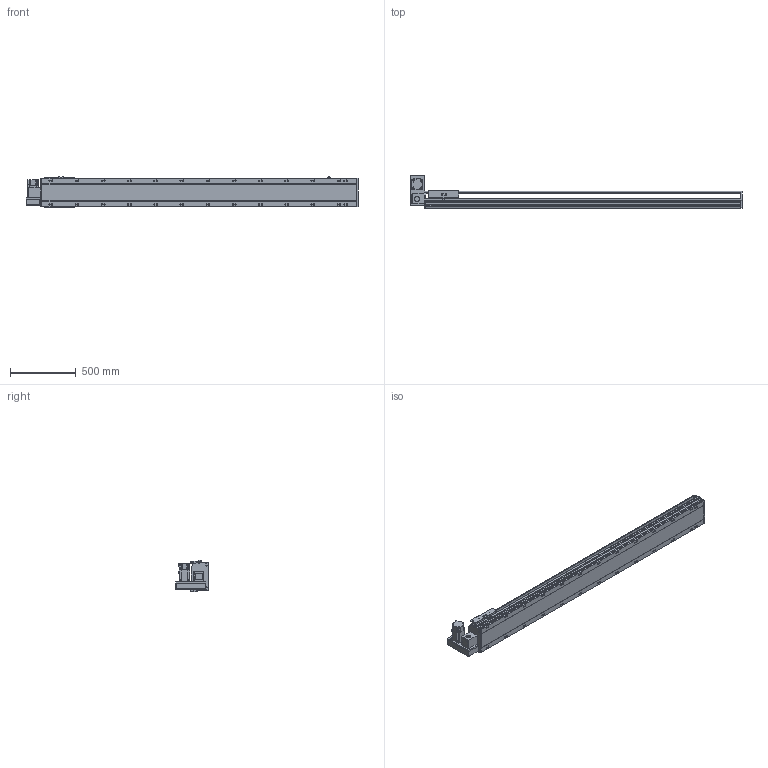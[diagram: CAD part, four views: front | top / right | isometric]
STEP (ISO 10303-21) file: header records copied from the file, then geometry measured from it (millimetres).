
FILE_DESCRIPTION(/* description */ ('STEP AP214'),/* implementation_level */ '2;1');
FILE_NAME(/* name */ 'PBS220-P40-S2050-LU-T75-C1-N(0)',/* time_stamp */ '2022-06-13T02:31:17+02:00',/* author */ ('License CC BY-ND 4.0'),/* organization */ ('CADENAS'),/* preprocessor_version */ 'ST-DEVELOPER v18.102',/* originating_system */ 'PARTsolutions',/* authorisation */ ' ');
FILE_SCHEMA (('AUTOMOTIVE_DESIGN {1 0 10303 214 3 1 1}'));
Length unit declared in the file: millimetre
Products named in the file (7): PBS220-P40-S2050-LU-T75-C1-N(0); PBS220_sensor; PBS220_plant; PBS220_sliser; T75-p1; PBS220T-LU_motors; PBS220-S2050()_body
Assembly tree (8 placements, depth 2):
  PBS220-P40-S2050-LU-T75-C1-N(0)
    PBS220_sensor  x3
    PBS220_plant
    PBS220_sliser
    T75-p1
    PBS220T-LU_motors
    PBS220-S2050()_body
Bounding box: 2534 x 247 x 238.5 mm (x, y, z)
Volume: 35592533.8 mm3; surface area: 3305450.5 mm2
Topology: 8 solids, 8 shells, 974 faces, 2536 edges, 1648 vertices
Faces by surface type: plane 618, cylinder 306, cone 50
Full cylindrical faces by diameter (mm): 2.013 x4, 4.5 x14, 4.917 x4, 6 x7, 6.647 x8, 8 x10, 8.376 x26, 8.5 x26, 10 x6, 14 x26, 38 x2, 40 x1, 70 x1
Entity records: 27189 total; most frequent: CARTESIAN_POINT 4822, DIRECTION 4725, ORIENTED_EDGE 4286, EDGE_CURVE 2143, AXIS2_PLACEMENT_3D 1685, VERTEX_POINT 1496, LINE 1355, VECTOR 1355
